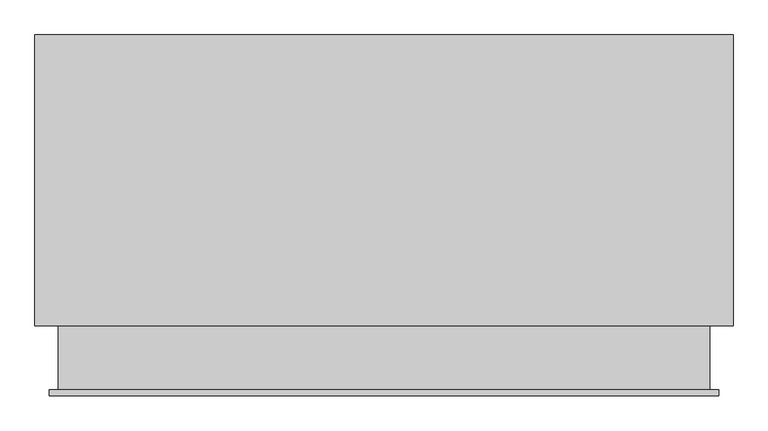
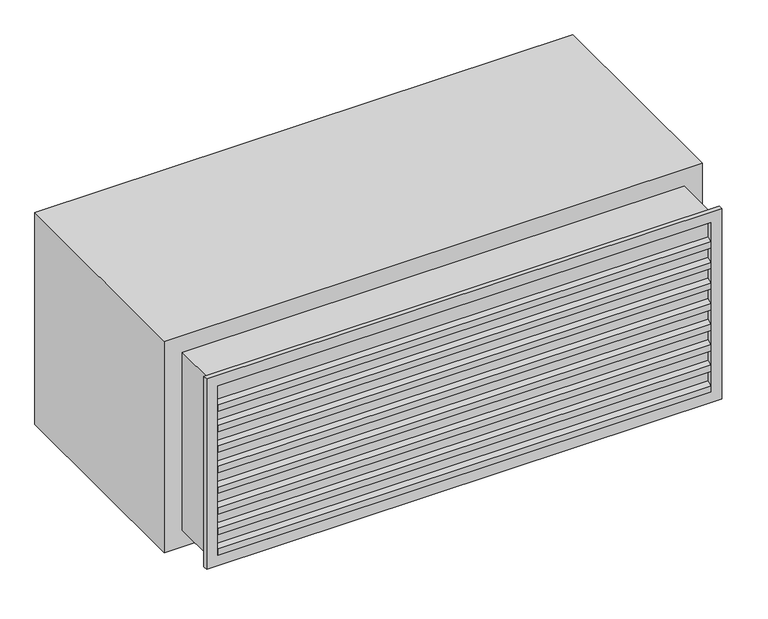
"""IFC4 building model written with IfcOpenShell, lengths in millimetres: air terminal geometry, 020_外気取入ガラリ : 外気取入ガラリ."""

from ifc_helpers import new_model, si_unit, frame, origin, place, context, project, spatial, polyline, outline, extrude, faceted_brep, source, transform, mapped, element, save


def air_terminal_b0bf6077(model_context):
    return source(origin(), model_context, "Body", "SolidModel", [
        extrude(outline(polyline([(48.0, 151.4285714), (50.0, 151.4285714), (50.0, 135.2113538), (-8.0, 105.2113538), (-8.0, 91.4285714), (-10.0, 91.4285714), (-10.0, 106.4285714), (48.0, 136.4285714), (48.0, 151.4285714)])), frame((-550.0, 0.0, 0.0), z_axis=(1.0, 0.0, 0.0), x_axis=(0.0, 1.0, 0.0)), (0.0, 0.0, 1.0), 1100.0),
        extrude(outline(polyline([(48.0, 102.8571429), (50.0, 102.8571429), (50.0, 86.6399252), (-8.0, 56.6399252), (-8.0, 42.8571429), (-10.0, 42.8571429), (-10.0, 57.8571429), (48.0, 87.8571429), (48.0, 102.8571429)])), frame((-550.0, 0.0, 0.0), z_axis=(1.0, 0.0, 0.0), x_axis=(0.0, 1.0, 0.0)), (0.0, 0.0, 1.0), 1100.0),
        extrude(outline(polyline([(48.0, 54.2857143), (50.0, 54.2857143), (50.0, 38.0684967), (-8.0, 8.0684967), (-8.0, -5.7142857), (-10.0, -5.7142857), (-10.0, 9.2857143), (48.0, 39.2857143), (48.0, 54.2857143)])), frame((-550.0, 0.0, 0.0), z_axis=(1.0, 0.0, 0.0), x_axis=(0.0, 1.0, 0.0)), (0.0, 0.0, 1.0), 1100.0),
        extrude(outline(polyline([(48.0, 5.7142857), (50.0, 5.7142857), (50.0, -10.5029319), (-8.0, -40.5029319), (-8.0, -54.2857143), (-10.0, -54.2857143), (-10.0, -39.2857143), (48.0, -9.2857143), (48.0, 5.7142857)])), frame((-550.0, 0.0, 0.0), z_axis=(1.0, 0.0, 0.0), x_axis=(0.0, 1.0, 0.0)), (0.0, 0.0, 1.0), 1100.0),
        extrude(outline(polyline([(48.0, -42.8571429), (50.0, -42.8571429), (50.0, -59.0743605), (-8.0, -89.0743605), (-8.0, -102.8571429), (-10.0, -102.8571429), (-10.0, -87.8571429), (48.0, -57.8571429), (48.0, -42.8571429)])), frame((-550.0, 0.0, 0.0), z_axis=(1.0, 0.0, 0.0), x_axis=(0.0, 1.0, 0.0)), (0.0, 0.0, 1.0), 1100.0),
        extrude(outline(polyline([(48.0, -91.4285714), (50.0, -91.4285714), (50.0, -107.645789), (-8.0, -137.645789), (-8.0, -151.4285714), (-10.0, -151.4285714), (-10.0, -136.4285714), (48.0, -106.4285714), (48.0, -91.4285714)])), frame((-550.0, 0.0, 0.0), z_axis=(1.0, 0.0, 0.0), x_axis=(0.0, 1.0, 0.0)), (0.0, 0.0, 1.0), 1100.0),
        extrude(outline(polyline([(48.0, 200.0), (50.0, 200.0), (50.0, 183.7827824), (-8.0, 153.7827824), (-8.0, 140.0), (-10.0, 140.0), (-10.0, 155.0), (48.0, 185.0), (48.0, 200.0)])), frame((-550.0, 0.0, 0.0), z_axis=(1.0, 0.0, 0.0), x_axis=(0.0, 1.0, 0.0)), (0.0, 0.0, 1.0), 1100.0),
        extrude(outline(polyline([(48.0, -140.0), (50.0, -140.0), (50.0, -156.2172176), (-8.0, -186.2172176), (-8.0, -200.0), (-10.0, -200.0), (-10.0, -185.0), (48.0, -155.0), (48.0, -140.0)])), frame((-550.0, 0.0, 0.0), z_axis=(1.0, 0.0, 0.0), x_axis=(0.0, 1.0, 0.0)), (0.0, 0.0, 1.0), 1100.0),
        faceted_brep([(550.0, -10.0, 200.0), (550.0, 110.0, 200.0), (550.0, 110.0, -200.0), (550.0, -10.0, -200.0), (575.0, 0.0, 225.0), (575.0, -10.0, 225.0), (575.0, -10.0, -225.0), (575.0, 0.0, -225.0), (560.0, 110.0, 210.0), (560.0, 0.0, 210.0), (560.0, 0.0, -210.0), (560.0, 110.0, -210.0), (-550.0, 110.0, -200.0), (-550.0, -10.0, -200.0), (-575.0, -10.0, -225.0), (-575.0, 0.0, -225.0), (-560.0, 0.0, -210.0), (-560.0, 110.0, -210.0), (-550.0, 110.0, 200.0), (-550.0, -10.0, 200.0), (-575.0, -10.0, 225.0), (-575.0, 0.0, 225.0), (-560.0, 0.0, 210.0), (-560.0, 110.0, 210.0)], [[[0, 1, 2, 3]], [[4, 5, 6, 7]], [[8, 9, 10, 11]], [[3, 2, 12, 13]], [[7, 6, 14, 15]], [[11, 10, 16, 17]], [[13, 12, 18, 19]], [[15, 14, 20, 21]], [[17, 16, 22, 23]], [[19, 18, 1, 0]], [[5, 20, 14, 6], [3, 13, 19, 0]], [[21, 20, 5, 4]], [[7, 15, 21, 4], [9, 22, 16, 10]], [[23, 22, 9, 8]], [[11, 17, 23, 8], [1, 18, 12, 2]]]),
        extrude(outline(polyline([(550.0, 0.0), (-550.0, 0.0), (-550.0, 10.0), (550.0, 10.0), (550.0, 0.0)])), frame((0.0, 0.0, -200.0), z_axis=(0.0, 0.0, 1.0), x_axis=(1.0, 0.0, 0.0)), (0.0, 0.0, 1.0), 400.0),
        extrude(outline(polyline([(600.0, 110.0), (-600.0, 110.0), (-600.0, 610.0), (600.0, 610.0), (600.0, 110.0)])), frame((0.0, 0.0, -250.0), z_axis=(0.0, 0.0, 1.0), x_axis=(1.0, 0.0, 0.0)), (0.0, 0.0, 1.0), 500.0),
    ])


if __name__ == "__main__":
    model = new_model("IFC4")
    model_context = context("Model", 3, world=origin())
    ifc_project = project(units=[si_unit("LENGTHUNIT", "METRE", prefix="MILLI")], contexts=[model_context])
    site = spatial("IfcSite", under=ifc_project)
    building = spatial("IfcBuilding", under=site)
    placement = place(None, origin())
    air_terminal_shape = air_terminal_b0bf6077(model_context)
    element("IfcAirTerminal", 1, ObjectType="020_外気取入ガラリ : 外気取入ガラリ", at=placement, inside=building, context=model_context, shape_type="MappedRepresentation", body=[
        mapped(air_terminal_shape, transform((0.0, 0.0, 0.0), x_axis=(1.0, 0.0, 0.0), y_axis=(0.0, 1.0, 0.0), z_axis=(0.0, 0.0, 1.0))),
    ])
    save(model, "model.ifc")
